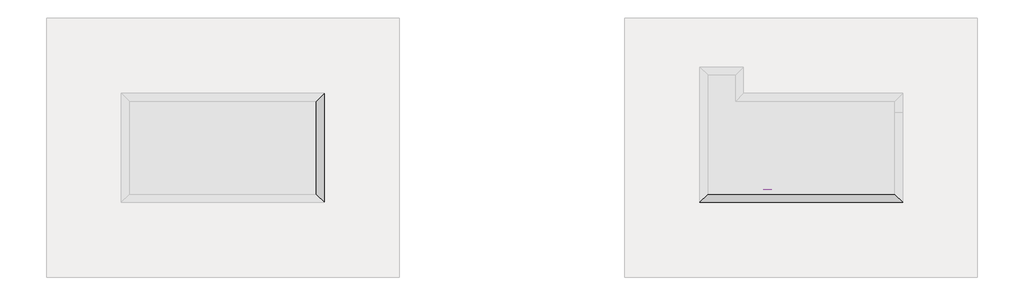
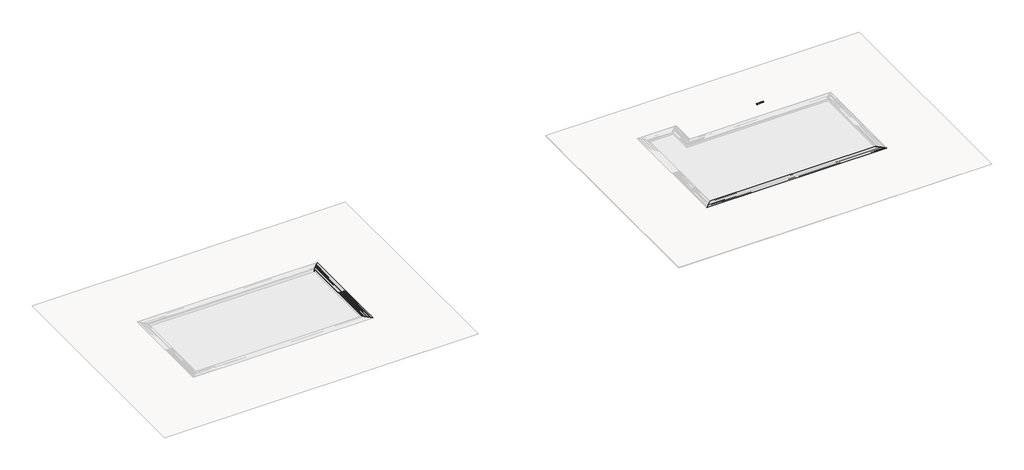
# One storey, part 3 of 6: 7 proxies.
"""IFC4 building model written with IfcOpenShell, lengths in millimetres."""

from ifc_helpers import new_model, si_unit, frame, origin, place, context, project, spatial, polyline, outline, extrude, faceted_brep, transform, mapped, element, save
from components import generic_models_2e22c04a, generic_models_158b5dbd

model = new_model("IFC4")

# Units and contexts
model_context = context("Model", 3, world=origin())
ifc_project = project(units=[si_unit("LENGTHUNIT", "METRE", prefix="MILLI")], contexts=[model_context])

# Site, building, storey
site = spatial("IfcSite", under=ifc_project)
building = spatial("IfcBuilding", under=site)
storey = spatial("IfcBuildingStorey", under=building, Name="EXAGRES_NUBIA Series_Pool_Examples", Elevation=18000.0)

# Proxies
placement = place(None, origin())
element("IfcBuildingElementProxy", 1, Name="Wall Sweeps", at=placement, inside=storey, context=model_context, shape_type="SweptSolid", body=[
    extrude(outline(polyline([(-13343.8828161, -4528.6632512), (-13648.8828161, -4223.6632512), (-5008.8828161, -4223.6632512), (-5313.8828161, -4528.6632512), (-13343.8828161, -4528.6632512)])), frame((0.0, 0.0, 17818.74), z_axis=(0.0, 0.0, 1.0), x_axis=(1.0, 0.0, 0.0)), (0.0, 0.0, 1.0), 200.0),
])
element("IfcBuildingElementProxy", 2, Name="Wall Sweeps", at=placement, inside=storey, context=model_context, shape_type="Brep", body=[
    faceted_brep([(19384.1171839, -8556.6632512, 18000.0), (19371.1171839, -8543.6632512, 18000.0), (19371.1171839, -8543.6632512, 18033.0), (19701.1171839, -8873.6632512, 18033.0), (19701.1171839, -8873.6632512, 18021.0), (19695.1171839, -8867.6632512, 18021.0), (19695.1171839, -8867.6632512, 18022.0), (19691.1171839, -8863.6632512, 18022.0), (19691.1171839, -8863.6632512, 18021.0), (19685.1171839, -8857.6632512, 18021.0), (19685.1171839, -8857.6632512, 18022.0), (19681.1171839, -8853.6632512, 18022.0), (19681.1171839, -8853.6632512, 18021.0), (19675.1171839, -8847.6632512, 18021.0), (19675.1171839, -8847.6632512, 18022.0), (19671.1171839, -8843.6632512, 18022.0), (19671.1171839, -8843.6632512, 18021.0), (19665.1171839, -8837.6632512, 18021.0), (19665.1171839, -8837.6632512, 18022.0), (19661.1171839, -8833.6632512, 18022.0), (19661.1171839, -8833.6632512, 18021.0), (19655.1171839, -8827.6632512, 18021.0), (19655.1171839, -8827.6632512, 18022.0), (19651.1171839, -8823.6632512, 18022.0), (19651.1171839, -8823.6632512, 18021.0), (19645.1171839, -8817.6632512, 18021.0), (19645.1171839, -8817.6632512, 18022.0), (19641.1171839, -8813.6632512, 18022.0), (19641.1171839, -8813.6632512, 18021.0), (19635.1171839, -8807.6632512, 18021.0), (19635.1171839, -8807.6632512, 18022.0), (19631.1171839, -8803.6632512, 18022.0), (19631.1171839, -8803.6632512, 18021.0), (19625.1171839, -8797.6632512, 18021.0), (19625.1171839, -8797.6632512, 18022.0), (19621.1171839, -8793.6632512, 18022.0), (19621.1171839, -8793.6632512, 18021.0), (19615.1171839, -8787.6632512, 18021.0), (19615.1171839, -8787.6632512, 18022.0), (19611.1171839, -8783.6632512, 18022.0), (19611.1171839, -8783.6632512, 18021.0), (19605.1171839, -8777.6632512, 18021.0), (19605.1171839, -8777.6632512, 18022.0), (19601.1171839, -8773.6632512, 18022.0), (19601.1171839, -8773.6632512, 18021.0), (19595.1171839, -8767.6632512, 18021.0), (19595.1171839, -8767.6632512, 18022.0), (19591.1171839, -8763.6632512, 18022.0), (19591.1171839, -8763.6632512, 18021.0), (19585.1171839, -8757.6632512, 18021.0), (19585.1171839, -8757.6632512, 18022.0), (19581.1171839, -8753.6632512, 18022.0), (19581.1171839, -8753.6632512, 18021.0), (19575.1171839, -8747.6632512, 18021.0), (19575.1171839, -8747.6632512, 18022.0), (19571.1171839, -8743.6632512, 18022.0), (19571.1171839, -8743.6632512, 18021.0), (19565.1171839, -8737.6632512, 18021.0), (19565.1171839, -8737.6632512, 18022.0), (19561.1171839, -8733.6632512, 18022.0), (19561.1171839, -8733.6632512, 18021.0), (19555.1171839, -8727.6632512, 18021.0), (19555.1171839, -8727.6632512, 18022.0), (19551.1171839, -8723.6632512, 18022.0), (19551.1171839, -8723.6632512, 18021.0), (19545.1171839, -8717.6632512, 18021.0), (19545.1171839, -8717.6632512, 18022.0), (19541.1171839, -8713.6632512, 18022.0), (19541.1171839, -8713.6632512, 18021.0), (19535.1171839, -8707.6632512, 18021.0), (19535.1171839, -8707.6632512, 18022.0), (19531.1171839, -8703.6632512, 18022.0), (19531.1171839, -8703.6632512, 18021.0), (19525.1171839, -8697.6632512, 18021.0), (19525.1171839, -8697.6632512, 18022.0), (19521.1171839, -8693.6632512, 18022.0), (19521.1171839, -8693.6632512, 18021.0), (19515.1171839, -8687.6632512, 18021.0), (19515.1171839, -8687.6632512, 18022.0), (19511.1171839, -8683.6632512, 18022.0), (19511.1171839, -8683.6632512, 18021.0), (19505.1171839, -8677.6632512, 18021.0), (19505.1171839, -8677.6632512, 18022.0), (19501.1171839, -8673.6632512, 18022.0), (19501.1171839, -8673.6632512, 18021.0), (19495.1171839, -8667.6632512, 18021.0), (19495.1171839, -8667.6632512, 18022.0), (19491.1171839, -8663.6632512, 18022.0), (19491.1171839, -8663.6632512, 18021.0), (19485.1171839, -8657.6632512, 18021.0), (19485.1171839, -8657.6632512, 18022.0), (19481.1171839, -8653.6632512, 18022.0), (19481.1171839, -8653.6632512, 18021.0), (19475.1171839, -8647.6632512, 18021.0), (19475.1171839, -8647.6632512, 18022.0), (19471.1171839, -8643.6632512, 18022.0), (19471.1171839, -8643.6632512, 18021.0), (19465.1171839, -8637.6632512, 18021.0), (19465.1171839, -8637.6632512, 18022.0), (19461.1171839, -8633.6632512, 18022.0), (19461.1171839, -8633.6632512, 18021.0), (19455.1171839, -8627.6632512, 18021.0), (19455.1171839, -8627.6632512, 18022.0), (19451.1171839, -8623.6632512, 18022.0), (19451.1171839, -8623.6632512, 18021.0), (19445.1171839, -8617.6632512, 18021.0), (19445.1171839, -8617.6632512, 18022.0), (19441.1171839, -8613.6632512, 18022.0), (19441.1171839, -8613.6632512, 18021.0), (19435.1171839, -8607.6632512, 18021.0), (19435.1171839, -8607.6632512, 18022.0), (19431.1171839, -8603.6632512, 18022.0), (19431.1171839, -8603.6632512, 18021.0), (19425.1171839, -8597.6632512, 18021.0), (19425.1171839, -8597.6632512, 18022.0), (19421.1171839, -8593.6632512, 18022.0), (19421.1171839, -8593.6632512, 18021.0), (19415.1171839, -8587.6632512, 18021.0), (19415.1171839, -8587.6632512, 18022.0), (19411.1171839, -8583.6632512, 18022.0), (19411.1171839, -8583.6632512, 18021.0), (19405.1171839, -8577.6632512, 18021.0), (19405.1171839, -8577.6632512, 18022.0), (19401.1171839, -8573.6632512, 18022.0), (19401.1171839, -8573.6632512, 18021.0), (19395.1171839, -8567.6632512, 18021.0), (19395.1171839, -8567.6632512, 18022.0), (19391.1171839, -8563.6632512, 18022.0), (19391.1171839, -8563.6632512, 18021.0), (19384.1171839, -8556.6632512, 18021.0), (19384.1171839, -8556.6632512, 18014.0), (19383.1171839, -8555.6632512, 18014.0), (19383.1171839, -8555.6632512, 18008.0), (19384.1171839, -8556.6632512, 18008.0), (11358.1171839, -8556.6632512, 18000.0), (11358.1171839, -8556.6632512, 18008.0), (11359.1171839, -8555.6632512, 18008.0), (11359.1171839, -8555.6632512, 18014.0), (11358.1171839, -8556.6632512, 18014.0), (11358.1171839, -8556.6632512, 18021.0), (11351.1171839, -8563.6632512, 18021.0), (11351.1171839, -8563.6632512, 18022.0), (11347.1171839, -8567.6632512, 18022.0), (11347.1171839, -8567.6632512, 18021.0), (11341.1171839, -8573.6632512, 18021.0), (11341.1171839, -8573.6632512, 18022.0), (11337.1171839, -8577.6632512, 18022.0), (11337.1171839, -8577.6632512, 18021.0), (11331.1171839, -8583.6632512, 18021.0), (11331.1171839, -8583.6632512, 18022.0), (11327.1171839, -8587.6632512, 18022.0), (11327.1171839, -8587.6632512, 18021.0), (11321.1171839, -8593.6632512, 18021.0), (11321.1171839, -8593.6632512, 18022.0), (11317.1171839, -8597.6632512, 18022.0), (11317.1171839, -8597.6632512, 18021.0), (11311.1171839, -8603.6632512, 18021.0), (11311.1171839, -8603.6632512, 18022.0), (11307.1171839, -8607.6632512, 18022.0), (11307.1171839, -8607.6632512, 18021.0), (11301.1171839, -8613.6632512, 18021.0), (11301.1171839, -8613.6632512, 18022.0), (11297.1171839, -8617.6632512, 18022.0), (11297.1171839, -8617.6632512, 18021.0), (11291.1171839, -8623.6632512, 18021.0), (11291.1171839, -8623.6632512, 18022.0), (11287.1171839, -8627.6632512, 18022.0), (11287.1171839, -8627.6632512, 18021.0), (11281.1171839, -8633.6632512, 18021.0), (11281.1171839, -8633.6632512, 18022.0), (11277.1171839, -8637.6632512, 18022.0), (11277.1171839, -8637.6632512, 18021.0), (11271.1171839, -8643.6632512, 18021.0), (11271.1171839, -8643.6632512, 18022.0), (11267.1171839, -8647.6632512, 18022.0), (11267.1171839, -8647.6632512, 18021.0), (11261.1171839, -8653.6632512, 18021.0), (11261.1171839, -8653.6632512, 18022.0), (11257.1171839, -8657.6632512, 18022.0), (11257.1171839, -8657.6632512, 18021.0), (11251.1171839, -8663.6632512, 18021.0), (11251.1171839, -8663.6632512, 18022.0), (11247.1171839, -8667.6632512, 18022.0), (11247.1171839, -8667.6632512, 18021.0), (11241.1171839, -8673.6632512, 18021.0), (11241.1171839, -8673.6632512, 18022.0), (11237.1171839, -8677.6632512, 18022.0), (11237.1171839, -8677.6632512, 18021.0), (11231.1171839, -8683.6632512, 18021.0), (11231.1171839, -8683.6632512, 18022.0), (11227.1171839, -8687.6632512, 18022.0), (11227.1171839, -8687.6632512, 18021.0), (11221.1171839, -8693.6632512, 18021.0), (11221.1171839, -8693.6632512, 18022.0), (11217.1171839, -8697.6632512, 18022.0), (11217.1171839, -8697.6632512, 18021.0), (11211.1171839, -8703.6632512, 18021.0), (11211.1171839, -8703.6632512, 18022.0), (11207.1171839, -8707.6632512, 18022.0), (11207.1171839, -8707.6632512, 18021.0), (11201.1171839, -8713.6632512, 18021.0), (11201.1171839, -8713.6632512, 18022.0), (11197.1171839, -8717.6632512, 18022.0), (11197.1171839, -8717.6632512, 18021.0), (11191.1171839, -8723.6632512, 18021.0), (11191.1171839, -8723.6632512, 18022.0), (11187.1171839, -8727.6632512, 18022.0), (11187.1171839, -8727.6632512, 18021.0), (11181.1171839, -8733.6632512, 18021.0), (11181.1171839, -8733.6632512, 18022.0), (11177.1171839, -8737.6632512, 18022.0), (11177.1171839, -8737.6632512, 18021.0), (11171.1171839, -8743.6632512, 18021.0), (11171.1171839, -8743.6632512, 18022.0), (11167.1171839, -8747.6632512, 18022.0), (11167.1171839, -8747.6632512, 18021.0), (11161.1171839, -8753.6632512, 18021.0), (11161.1171839, -8753.6632512, 18022.0), (11157.1171839, -8757.6632512, 18022.0), (11157.1171839, -8757.6632512, 18021.0), (11151.1171839, -8763.6632512, 18021.0), (11151.1171839, -8763.6632512, 18022.0), (11147.1171839, -8767.6632512, 18022.0), (11147.1171839, -8767.6632512, 18021.0), (11141.1171839, -8773.6632512, 18021.0), (11141.1171839, -8773.6632512, 18022.0), (11137.1171839, -8777.6632512, 18022.0), (11137.1171839, -8777.6632512, 18021.0), (11131.1171839, -8783.6632512, 18021.0), (11131.1171839, -8783.6632512, 18022.0), (11127.1171839, -8787.6632512, 18022.0), (11127.1171839, -8787.6632512, 18021.0), (11121.1171839, -8793.6632512, 18021.0), (11121.1171839, -8793.6632512, 18022.0), (11117.1171839, -8797.6632512, 18022.0), (11117.1171839, -8797.6632512, 18021.0), (11111.1171839, -8803.6632512, 18021.0), (11111.1171839, -8803.6632512, 18022.0), (11107.1171839, -8807.6632512, 18022.0), (11107.1171839, -8807.6632512, 18021.0), (11101.1171839, -8813.6632512, 18021.0), (11101.1171839, -8813.6632512, 18022.0), (11097.1171839, -8817.6632512, 18022.0), (11097.1171839, -8817.6632512, 18021.0), (11091.1171839, -8823.6632512, 18021.0), (11091.1171839, -8823.6632512, 18022.0), (11087.1171839, -8827.6632512, 18022.0), (11087.1171839, -8827.6632512, 18021.0), (11081.1171839, -8833.6632512, 18021.0), (11081.1171839, -8833.6632512, 18022.0), (11077.1171839, -8837.6632512, 18022.0), (11077.1171839, -8837.6632512, 18021.0), (11071.1171839, -8843.6632512, 18021.0), (11071.1171839, -8843.6632512, 18022.0), (11067.1171839, -8847.6632512, 18022.0), (11067.1171839, -8847.6632512, 18021.0), (11061.1171839, -8853.6632512, 18021.0), (11061.1171839, -8853.6632512, 18022.0), (11057.1171839, -8857.6632512, 18022.0), (11057.1171839, -8857.6632512, 18021.0), (11051.1171839, -8863.6632512, 18021.0), (11051.1171839, -8863.6632512, 18022.0), (11047.1171839, -8867.6632512, 18022.0), (11047.1171839, -8867.6632512, 18021.0), (11041.1171839, -8873.6632512, 18021.0), (11041.1171839, -8873.6632512, 18033.0), (11371.1171839, -8543.6632512, 18033.0), (11371.1171839, -8543.6632512, 18000.0)], [[[0, 1, 2, 3, 4, 5, 6, 7, 8, 9, 10, 11, 12, 13, 14, 15, 16, 17, 18, 19, 20, 21, 22, 23, 24, 25, 26, 27, 28, 29, 30, 31, 32, 33, 34, 35, 36, 37, 38, 39, 40, 41, 42, 43, 44, 45, 46, 47, 48, 49, 50, 51, 52, 53, 54, 55, 56, 57, 58, 59, 60, 61, 62, 63, 64, 65, 66, 67, 68, 69, 70, 71, 72, 73, 74, 75, 76, 77, 78, 79, 80, 81, 82, 83, 84, 85, 86, 87, 88, 89, 90, 91, 92, 93, 94, 95, 96, 97, 98, 99, 100, 101, 102, 103, 104, 105, 106, 107, 108, 109, 110, 111, 112, 113, 114, 115, 116, 117, 118, 119, 120, 121, 122, 123, 124, 125, 126, 127, 128, 129, 130, 131, 132, 133]], [[134, 135, 136, 137, 138, 139, 140, 141, 142, 143, 144, 145, 146, 147, 148, 149, 150, 151, 152, 153, 154, 155, 156, 157, 158, 159, 160, 161, 162, 163, 164, 165, 166, 167, 168, 169, 170, 171, 172, 173, 174, 175, 176, 177, 178, 179, 180, 181, 182, 183, 184, 185, 186, 187, 188, 189, 190, 191, 192, 193, 194, 195, 196, 197, 198, 199, 200, 201, 202, 203, 204, 205, 206, 207, 208, 209, 210, 211, 212, 213, 214, 215, 216, 217, 218, 219, 220, 221, 222, 223, 224, 225, 226, 227, 228, 229, 230, 231, 232, 233, 234, 235, 236, 237, 238, 239, 240, 241, 242, 243, 244, 245, 246, 247, 248, 249, 250, 251, 252, 253, 254, 255, 256, 257, 258, 259, 260, 261, 262, 263, 264, 265, 266, 267]], [[1, 0, 134, 267]], [[2, 1, 267, 266]], [[3, 2, 266, 265]], [[4, 3, 265, 264]], [[5, 4, 264, 263]], [[6, 5, 263, 262]], [[7, 6, 262, 261]], [[8, 7, 261, 260]], [[9, 8, 260, 259]], [[10, 9, 259, 258]], [[11, 10, 258, 257]], [[12, 11, 257, 256]], [[13, 12, 256, 255]], [[14, 13, 255, 254]], [[15, 14, 254, 253]], [[16, 15, 253, 252]], [[17, 16, 252, 251]], [[18, 17, 251, 250]], [[19, 18, 250, 249]], [[20, 19, 249, 248]], [[21, 20, 248, 247]], [[22, 21, 247, 246]], [[23, 22, 246, 245]], [[24, 23, 245, 244]], [[25, 24, 244, 243]], [[26, 25, 243, 242]], [[27, 26, 242, 241]], [[28, 27, 241, 240]], [[29, 28, 240, 239]], [[30, 29, 239, 238]], [[31, 30, 238, 237]], [[32, 31, 237, 236]], [[33, 32, 236, 235]], [[34, 33, 235, 234]], [[35, 34, 234, 233]], [[36, 35, 233, 232]], [[37, 36, 232, 231]], [[38, 37, 231, 230]], [[39, 38, 230, 229]], [[40, 39, 229, 228]], [[41, 40, 228, 227]], [[42, 41, 227, 226]], [[43, 42, 226, 225]], [[44, 43, 225, 224]], [[45, 44, 224, 223]], [[46, 45, 223, 222]], [[47, 46, 222, 221]], [[48, 47, 221, 220]], [[49, 48, 220, 219]], [[50, 49, 219, 218]], [[51, 50, 218, 217]], [[52, 51, 217, 216]], [[53, 52, 216, 215]], [[54, 53, 215, 214]], [[55, 54, 214, 213]], [[56, 55, 213, 212]], [[57, 56, 212, 211]], [[58, 57, 211, 210]], [[59, 58, 210, 209]], [[60, 59, 209, 208]], [[61, 60, 208, 207]], [[62, 61, 207, 206]], [[63, 62, 206, 205]], [[64, 63, 205, 204]], [[65, 64, 204, 203]], [[66, 65, 203, 202]], [[67, 66, 202, 201]], [[68, 67, 201, 200]], [[69, 68, 200, 199]], [[70, 69, 199, 198]], [[71, 70, 198, 197]], [[72, 71, 197, 196]], [[73, 72, 196, 195]], [[74, 73, 195, 194]], [[75, 74, 194, 193]], [[76, 75, 193, 192]], [[77, 76, 192, 191]], [[78, 77, 191, 190]], [[79, 78, 190, 189]], [[80, 79, 189, 188]], [[81, 80, 188, 187]], [[82, 81, 187, 186]], [[83, 82, 186, 185]], [[84, 83, 185, 184]], [[85, 84, 184, 183]], [[86, 85, 183, 182]], [[87, 86, 182, 181]], [[88, 87, 181, 180]], [[89, 88, 180, 179]], [[90, 89, 179, 178]], [[91, 90, 178, 177]], [[92, 91, 177, 176]], [[93, 92, 176, 175]], [[94, 93, 175, 174]], [[95, 94, 174, 173]], [[96, 95, 173, 172]], [[97, 96, 172, 171]], [[98, 97, 171, 170]], [[99, 98, 170, 169]], [[100, 99, 169, 168]], [[101, 100, 168, 167]], [[102, 101, 167, 166]], [[103, 102, 166, 165]], [[104, 103, 165, 164]], [[105, 104, 164, 163]], [[106, 105, 163, 162]], [[107, 106, 162, 161]], [[108, 107, 161, 160]], [[109, 108, 160, 159]], [[110, 109, 159, 158]], [[111, 110, 158, 157]], [[112, 111, 157, 156]], [[113, 112, 156, 155]], [[114, 113, 155, 154]], [[115, 114, 154, 153]], [[116, 115, 153, 152]], [[117, 116, 152, 151]], [[118, 117, 151, 150]], [[119, 118, 150, 149]], [[120, 119, 149, 148]], [[121, 120, 148, 147]], [[122, 121, 147, 146]], [[123, 122, 146, 145]], [[124, 123, 145, 144]], [[125, 124, 144, 143]], [[126, 125, 143, 142]], [[127, 126, 142, 141]], [[128, 127, 141, 140]], [[129, 128, 140, 139]], [[130, 129, 139, 138]], [[131, 130, 138, 137]], [[132, 131, 137, 136]], [[133, 132, 136, 135]], [[0, 133, 135, 134]]]),
])
element("IfcBuildingElementProxy", 3, Name="Wall Sweeps", at=placement, inside=storey, context=model_context, shape_type="Brep", body=[
    faceted_brep([(19691.1171839, -8863.6632512, 17818.74), (19386.1171839, -8558.6632512, 17818.74), (19386.1171839, -8558.6632512, 18018.74), (19691.1171839, -8863.6632512, 18018.74), (11051.1171839, -8863.6632512, 17818.74), (11051.1171839, -8863.6632512, 18018.74), (11356.1171839, -8558.6632512, 18018.74), (11356.1171839, -8558.6632512, 18000.0), (11356.1171839, -8558.6632512, 17818.74), (11146.1171839, -8768.6632512, 17818.74)], [[[0, 1, 2, 3]], [[4, 5, 6, 7, 8, 9]], [[2, 1, 8, 7, 6]], [[1, 0, 4, 9, 8]], [[3, 2, 6, 5]], [[0, 3, 5, 4]]]),
])
element("IfcBuildingElementProxy", 4, Name="Wall Sweeps", at=placement, inside=storey, context=model_context, shape_type="Brep", body=[
    faceted_brep([(-5315.8828161, -4530.6632512, 18000.0), (-5328.8828161, -4543.6632512, 18000.0), (-5328.8828161, -4543.6632512, 18033.0), (-4998.8828161, -4213.6632512, 18033.0), (-4998.8828161, -4213.6632512, 18021.0), (-5004.8828161, -4219.6632512, 18021.0), (-5004.8828161, -4219.6632512, 18022.0), (-5008.8828161, -4223.6632512, 18022.0), (-5008.8828161, -4223.6632512, 18021.0), (-5014.8828161, -4229.6632512, 18021.0), (-5014.8828161, -4229.6632512, 18022.0), (-5018.8828161, -4233.6632512, 18022.0), (-5018.8828161, -4233.6632512, 18021.0), (-5024.8828161, -4239.6632512, 18021.0), (-5024.8828161, -4239.6632512, 18022.0), (-5028.8828161, -4243.6632512, 18022.0), (-5028.8828161, -4243.6632512, 18021.0), (-5034.8828161, -4249.6632512, 18021.0), (-5034.8828161, -4249.6632512, 18022.0), (-5038.8828161, -4253.6632512, 18022.0), (-5038.8828161, -4253.6632512, 18021.0), (-5044.8828161, -4259.6632512, 18021.0), (-5044.8828161, -4259.6632512, 18022.0), (-5048.8828161, -4263.6632512, 18022.0), (-5048.8828161, -4263.6632512, 18021.0), (-5054.8828161, -4269.6632512, 18021.0), (-5054.8828161, -4269.6632512, 18022.0), (-5058.8828161, -4273.6632512, 18022.0), (-5058.8828161, -4273.6632512, 18021.0), (-5064.8828161, -4279.6632512, 18021.0), (-5064.8828161, -4279.6632512, 18022.0), (-5068.8828161, -4283.6632512, 18022.0), (-5068.8828161, -4283.6632512, 18021.0), (-5074.8828161, -4289.6632512, 18021.0), (-5074.8828161, -4289.6632512, 18022.0), (-5078.8828161, -4293.6632512, 18022.0), (-5078.8828161, -4293.6632512, 18021.0), (-5084.8828161, -4299.6632512, 18021.0), (-5084.8828161, -4299.6632512, 18022.0), (-5088.8828161, -4303.6632512, 18022.0), (-5088.8828161, -4303.6632512, 18021.0), (-5094.8828161, -4309.6632512, 18021.0), (-5094.8828161, -4309.6632512, 18022.0), (-5098.8828161, -4313.6632512, 18022.0), (-5098.8828161, -4313.6632512, 18021.0), (-5104.8828161, -4319.6632512, 18021.0), (-5104.8828161, -4319.6632512, 18022.0), (-5108.8828161, -4323.6632512, 18022.0), (-5108.8828161, -4323.6632512, 18021.0), (-5114.8828161, -4329.6632512, 18021.0), (-5114.8828161, -4329.6632512, 18022.0), (-5118.8828161, -4333.6632512, 18022.0), (-5118.8828161, -4333.6632512, 18021.0), (-5124.8828161, -4339.6632512, 18021.0), (-5124.8828161, -4339.6632512, 18022.0), (-5128.8828161, -4343.6632512, 18022.0), (-5128.8828161, -4343.6632512, 18021.0), (-5134.8828161, -4349.6632512, 18021.0), (-5134.8828161, -4349.6632512, 18022.0), (-5138.8828161, -4353.6632512, 18022.0), (-5138.8828161, -4353.6632512, 18021.0), (-5144.8828161, -4359.6632512, 18021.0), (-5144.8828161, -4359.6632512, 18022.0), (-5148.8828161, -4363.6632512, 18022.0), (-5148.8828161, -4363.6632512, 18021.0), (-5154.8828161, -4369.6632512, 18021.0), (-5154.8828161, -4369.6632512, 18022.0), (-5158.8828161, -4373.6632512, 18022.0), (-5158.8828161, -4373.6632512, 18021.0), (-5164.8828161, -4379.6632512, 18021.0), (-5164.8828161, -4379.6632512, 18022.0), (-5168.8828161, -4383.6632512, 18022.0), (-5168.8828161, -4383.6632512, 18021.0), (-5174.8828161, -4389.6632512, 18021.0), (-5174.8828161, -4389.6632512, 18022.0), (-5178.8828161, -4393.6632512, 18022.0), (-5178.8828161, -4393.6632512, 18021.0), (-5184.8828161, -4399.6632512, 18021.0), (-5184.8828161, -4399.6632512, 18022.0), (-5188.8828161, -4403.6632512, 18022.0), (-5188.8828161, -4403.6632512, 18021.0), (-5194.8828161, -4409.6632512, 18021.0), (-5194.8828161, -4409.6632512, 18022.0), (-5198.8828161, -4413.6632512, 18022.0), (-5198.8828161, -4413.6632512, 18021.0), (-5204.8828161, -4419.6632512, 18021.0), (-5204.8828161, -4419.6632512, 18022.0), (-5208.8828161, -4423.6632512, 18022.0), (-5208.8828161, -4423.6632512, 18021.0), (-5214.8828161, -4429.6632512, 18021.0), (-5214.8828161, -4429.6632512, 18022.0), (-5218.8828161, -4433.6632512, 18022.0), (-5218.8828161, -4433.6632512, 18021.0), (-5224.8828161, -4439.6632512, 18021.0), (-5224.8828161, -4439.6632512, 18022.0), (-5228.8828161, -4443.6632512, 18022.0), (-5228.8828161, -4443.6632512, 18021.0), (-5234.8828161, -4449.6632512, 18021.0), (-5234.8828161, -4449.6632512, 18022.0), (-5238.8828161, -4453.6632512, 18022.0), (-5238.8828161, -4453.6632512, 18021.0), (-5244.8828161, -4459.6632512, 18021.0), (-5244.8828161, -4459.6632512, 18022.0), (-5248.8828161, -4463.6632512, 18022.0), (-5248.8828161, -4463.6632512, 18021.0), (-5254.8828161, -4469.6632512, 18021.0), (-5254.8828161, -4469.6632512, 18022.0), (-5258.8828161, -4473.6632512, 18022.0), (-5258.8828161, -4473.6632512, 18021.0), (-5264.8828161, -4479.6632512, 18021.0), (-5264.8828161, -4479.6632512, 18022.0), (-5268.8828161, -4483.6632512, 18022.0), (-5268.8828161, -4483.6632512, 18021.0), (-5274.8828161, -4489.6632512, 18021.0), (-5274.8828161, -4489.6632512, 18022.0), (-5278.8828161, -4493.6632512, 18022.0), (-5278.8828161, -4493.6632512, 18021.0), (-5284.8828161, -4499.6632512, 18021.0), (-5284.8828161, -4499.6632512, 18022.0), (-5288.8828161, -4503.6632512, 18022.0), (-5288.8828161, -4503.6632512, 18021.0), (-5294.8828161, -4509.6632512, 18021.0), (-5294.8828161, -4509.6632512, 18022.0), (-5298.8828161, -4513.6632512, 18022.0), (-5298.8828161, -4513.6632512, 18021.0), (-5304.8828161, -4519.6632512, 18021.0), (-5304.8828161, -4519.6632512, 18022.0), (-5308.8828161, -4523.6632512, 18022.0), (-5308.8828161, -4523.6632512, 18021.0), (-5315.8828161, -4530.6632512, 18021.0), (-5315.8828161, -4530.6632512, 18014.0), (-5316.8828161, -4531.6632512, 18014.0), (-5316.8828161, -4531.6632512, 18008.0), (-5315.8828161, -4530.6632512, 18008.0), (-5315.8828161, -8556.6632512, 18000.0), (-5315.8828161, -8556.6632512, 18008.0), (-5316.8828161, -8555.6632512, 18008.0), (-5316.8828161, -8555.6632512, 18014.0), (-5315.8828161, -8556.6632512, 18014.0), (-5315.8828161, -8556.6632512, 18021.0), (-5308.8828161, -8563.6632512, 18021.0), (-5308.8828161, -8563.6632512, 18022.0), (-5304.8828161, -8567.6632512, 18022.0), (-5304.8828161, -8567.6632512, 18021.0), (-5298.8828161, -8573.6632512, 18021.0), (-5298.8828161, -8573.6632512, 18022.0), (-5294.8828161, -8577.6632512, 18022.0), (-5294.8828161, -8577.6632512, 18021.0), (-5288.8828161, -8583.6632512, 18021.0), (-5288.8828161, -8583.6632512, 18022.0), (-5284.8828161, -8587.6632512, 18022.0), (-5284.8828161, -8587.6632512, 18021.0), (-5278.8828161, -8593.6632512, 18021.0), (-5278.8828161, -8593.6632512, 18022.0), (-5274.8828161, -8597.6632512, 18022.0), (-5274.8828161, -8597.6632512, 18021.0), (-5268.8828161, -8603.6632512, 18021.0), (-5268.8828161, -8603.6632512, 18022.0), (-5264.8828161, -8607.6632512, 18022.0), (-5264.8828161, -8607.6632512, 18021.0), (-5258.8828161, -8613.6632512, 18021.0), (-5258.8828161, -8613.6632512, 18022.0), (-5254.8828161, -8617.6632512, 18022.0), (-5254.8828161, -8617.6632512, 18021.0), (-5248.8828161, -8623.6632512, 18021.0), (-5248.8828161, -8623.6632512, 18022.0), (-5244.8828161, -8627.6632512, 18022.0), (-5244.8828161, -8627.6632512, 18021.0), (-5238.8828161, -8633.6632512, 18021.0), (-5238.8828161, -8633.6632512, 18022.0), (-5234.8828161, -8637.6632512, 18022.0), (-5234.8828161, -8637.6632512, 18021.0), (-5228.8828161, -8643.6632512, 18021.0), (-5228.8828161, -8643.6632512, 18022.0), (-5224.8828161, -8647.6632512, 18022.0), (-5224.8828161, -8647.6632512, 18021.0), (-5218.8828161, -8653.6632512, 18021.0), (-5218.8828161, -8653.6632512, 18022.0), (-5214.8828161, -8657.6632512, 18022.0), (-5214.8828161, -8657.6632512, 18021.0), (-5208.8828161, -8663.6632512, 18021.0), (-5208.8828161, -8663.6632512, 18022.0), (-5204.8828161, -8667.6632512, 18022.0), (-5204.8828161, -8667.6632512, 18021.0), (-5198.8828161, -8673.6632512, 18021.0), (-5198.8828161, -8673.6632512, 18022.0), (-5194.8828161, -8677.6632512, 18022.0), (-5194.8828161, -8677.6632512, 18021.0), (-5188.8828161, -8683.6632512, 18021.0), (-5188.8828161, -8683.6632512, 18022.0), (-5184.8828161, -8687.6632512, 18022.0), (-5184.8828161, -8687.6632512, 18021.0), (-5178.8828161, -8693.6632512, 18021.0), (-5178.8828161, -8693.6632512, 18022.0), (-5174.8828161, -8697.6632512, 18022.0), (-5174.8828161, -8697.6632512, 18021.0), (-5168.8828161, -8703.6632512, 18021.0), (-5168.8828161, -8703.6632512, 18022.0), (-5164.8828161, -8707.6632512, 18022.0), (-5164.8828161, -8707.6632512, 18021.0), (-5158.8828161, -8713.6632512, 18021.0), (-5158.8828161, -8713.6632512, 18022.0), (-5154.8828161, -8717.6632512, 18022.0), (-5154.8828161, -8717.6632512, 18021.0), (-5148.8828161, -8723.6632512, 18021.0), (-5148.8828161, -8723.6632512, 18022.0), (-5144.8828161, -8727.6632512, 18022.0), (-5144.8828161, -8727.6632512, 18021.0), (-5138.8828161, -8733.6632512, 18021.0), (-5138.8828161, -8733.6632512, 18022.0), (-5134.8828161, -8737.6632512, 18022.0), (-5134.8828161, -8737.6632512, 18021.0), (-5128.8828161, -8743.6632512, 18021.0), (-5128.8828161, -8743.6632512, 18022.0), (-5124.8828161, -8747.6632512, 18022.0), (-5124.8828161, -8747.6632512, 18021.0), (-5118.8828161, -8753.6632512, 18021.0), (-5118.8828161, -8753.6632512, 18022.0), (-5114.8828161, -8757.6632512, 18022.0), (-5114.8828161, -8757.6632512, 18021.0), (-5108.8828161, -8763.6632512, 18021.0), (-5108.8828161, -8763.6632512, 18022.0), (-5104.8828161, -8767.6632512, 18022.0), (-5104.8828161, -8767.6632512, 18021.0), (-5098.8828161, -8773.6632512, 18021.0), (-5098.8828161, -8773.6632512, 18022.0), (-5094.8828161, -8777.6632512, 18022.0), (-5094.8828161, -8777.6632512, 18021.0), (-5088.8828161, -8783.6632512, 18021.0), (-5088.8828161, -8783.6632512, 18022.0), (-5084.8828161, -8787.6632512, 18022.0), (-5084.8828161, -8787.6632512, 18021.0), (-5078.8828161, -8793.6632512, 18021.0), (-5078.8828161, -8793.6632512, 18022.0), (-5074.8828161, -8797.6632512, 18022.0), (-5074.8828161, -8797.6632512, 18021.0), (-5068.8828161, -8803.6632512, 18021.0), (-5068.8828161, -8803.6632512, 18022.0), (-5064.8828161, -8807.6632512, 18022.0), (-5064.8828161, -8807.6632512, 18021.0), (-5058.8828161, -8813.6632512, 18021.0), (-5058.8828161, -8813.6632512, 18022.0), (-5054.8828161, -8817.6632512, 18022.0), (-5054.8828161, -8817.6632512, 18021.0), (-5048.8828161, -8823.6632512, 18021.0), (-5048.8828161, -8823.6632512, 18022.0), (-5044.8828161, -8827.6632512, 18022.0), (-5044.8828161, -8827.6632512, 18021.0), (-5038.8828161, -8833.6632512, 18021.0), (-5038.8828161, -8833.6632512, 18022.0), (-5034.8828161, -8837.6632512, 18022.0), (-5034.8828161, -8837.6632512, 18021.0), (-5028.8828161, -8843.6632512, 18021.0), (-5028.8828161, -8843.6632512, 18022.0), (-5024.8828161, -8847.6632512, 18022.0), (-5024.8828161, -8847.6632512, 18021.0), (-5018.8828161, -8853.6632512, 18021.0), (-5018.8828161, -8853.6632512, 18022.0), (-5014.8828161, -8857.6632512, 18022.0), (-5014.8828161, -8857.6632512, 18021.0), (-5008.8828161, -8863.6632512, 18021.0), (-5008.8828161, -8863.6632512, 18022.0), (-5004.8828161, -8867.6632512, 18022.0), (-5004.8828161, -8867.6632512, 18021.0), (-4998.8828161, -8873.6632512, 18021.0), (-4998.8828161, -8873.6632512, 18033.0), (-5328.8828161, -8543.6632512, 18033.0), (-5328.8828161, -8543.6632512, 18000.0)], [[[0, 1, 2, 3, 4, 5, 6, 7, 8, 9, 10, 11, 12, 13, 14, 15, 16, 17, 18, 19, 20, 21, 22, 23, 24, 25, 26, 27, 28, 29, 30, 31, 32, 33, 34, 35, 36, 37, 38, 39, 40, 41, 42, 43, 44, 45, 46, 47, 48, 49, 50, 51, 52, 53, 54, 55, 56, 57, 58, 59, 60, 61, 62, 63, 64, 65, 66, 67, 68, 69, 70, 71, 72, 73, 74, 75, 76, 77, 78, 79, 80, 81, 82, 83, 84, 85, 86, 87, 88, 89, 90, 91, 92, 93, 94, 95, 96, 97, 98, 99, 100, 101, 102, 103, 104, 105, 106, 107, 108, 109, 110, 111, 112, 113, 114, 115, 116, 117, 118, 119, 120, 121, 122, 123, 124, 125, 126, 127, 128, 129, 130, 131, 132, 133]], [[134, 135, 136, 137, 138, 139, 140, 141, 142, 143, 144, 145, 146, 147, 148, 149, 150, 151, 152, 153, 154, 155, 156, 157, 158, 159, 160, 161, 162, 163, 164, 165, 166, 167, 168, 169, 170, 171, 172, 173, 174, 175, 176, 177, 178, 179, 180, 181, 182, 183, 184, 185, 186, 187, 188, 189, 190, 191, 192, 193, 194, 195, 196, 197, 198, 199, 200, 201, 202, 203, 204, 205, 206, 207, 208, 209, 210, 211, 212, 213, 214, 215, 216, 217, 218, 219, 220, 221, 222, 223, 224, 225, 226, 227, 228, 229, 230, 231, 232, 233, 234, 235, 236, 237, 238, 239, 240, 241, 242, 243, 244, 245, 246, 247, 248, 249, 250, 251, 252, 253, 254, 255, 256, 257, 258, 259, 260, 261, 262, 263, 264, 265, 266, 267]], [[1, 0, 134, 267]], [[2, 1, 267, 266]], [[3, 2, 266, 265]], [[4, 3, 265, 264]], [[5, 4, 264, 263]], [[6, 5, 263, 262]], [[7, 6, 262, 261]], [[8, 7, 261, 260]], [[9, 8, 260, 259]], [[10, 9, 259, 258]], [[11, 10, 258, 257]], [[12, 11, 257, 256]], [[13, 12, 256, 255]], [[14, 13, 255, 254]], [[15, 14, 254, 253]], [[16, 15, 253, 252]], [[17, 16, 252, 251]], [[18, 17, 251, 250]], [[19, 18, 250, 249]], [[20, 19, 249, 248]], [[21, 20, 248, 247]], [[22, 21, 247, 246]], [[23, 22, 246, 245]], [[24, 23, 245, 244]], [[25, 24, 244, 243]], [[26, 25, 243, 242]], [[27, 26, 242, 241]], [[28, 27, 241, 240]], [[29, 28, 240, 239]], [[30, 29, 239, 238]], [[31, 30, 238, 237]], [[32, 31, 237, 236]], [[33, 32, 236, 235]], [[34, 33, 235, 234]], [[35, 34, 234, 233]], [[36, 35, 233, 232]], [[37, 36, 232, 231]], [[38, 37, 231, 230]], [[39, 38, 230, 229]], [[40, 39, 229, 228]], [[41, 40, 228, 227]], [[42, 41, 227, 226]], [[43, 42, 226, 225]], [[44, 43, 225, 224]], [[45, 44, 224, 223]], [[46, 45, 223, 222]], [[47, 46, 222, 221]], [[48, 47, 221, 220]], [[49, 48, 220, 219]], [[50, 49, 219, 218]], [[51, 50, 218, 217]], [[52, 51, 217, 216]], [[53, 52, 216, 215]], [[54, 53, 215, 214]], [[55, 54, 214, 213]], [[56, 55, 213, 212]], [[57, 56, 212, 211]], [[58, 57, 211, 210]], [[59, 58, 210, 209]], [[60, 59, 209, 208]], [[61, 60, 208, 207]], [[62, 61, 207, 206]], [[63, 62, 206, 205]], [[64, 63, 205, 204]], [[65, 64, 204, 203]], [[66, 65, 203, 202]], [[67, 66, 202, 201]], [[68, 67, 201, 200]], [[69, 68, 200, 199]], [[70, 69, 199, 198]], [[71, 70, 198, 197]], [[72, 71, 197, 196]], [[73, 72, 196, 195]], [[74, 73, 195, 194]], [[75, 74, 194, 193]], [[76, 75, 193, 192]], [[77, 76, 192, 191]], [[78, 77, 191, 190]], [[79, 78, 190, 189]], [[80, 79, 189, 188]], [[81, 80, 188, 187]], [[82, 81, 187, 186]], [[83, 82, 186, 185]], [[84, 83, 185, 184]], [[85, 84, 184, 183]], [[86, 85, 183, 182]], [[87, 86, 182, 181]], [[88, 87, 181, 180]], [[89, 88, 180, 179]], [[90, 89, 179, 178]], [[91, 90, 178, 177]], [[92, 91, 177, 176]], [[93, 92, 176, 175]], [[94, 93, 175, 174]], [[95, 94, 174, 173]], [[96, 95, 173, 172]], [[97, 96, 172, 171]], [[98, 97, 171, 170]], [[99, 98, 170, 169]], [[100, 99, 169, 168]], [[101, 100, 168, 167]], [[102, 101, 167, 166]], [[103, 102, 166, 165]], [[104, 103, 165, 164]], [[105, 104, 164, 163]], [[106, 105, 163, 162]], [[107, 106, 162, 161]], [[108, 107, 161, 160]], [[109, 108, 160, 159]], [[110, 109, 159, 158]], [[111, 110, 158, 157]], [[112, 111, 157, 156]], [[113, 112, 156, 155]], [[114, 113, 155, 154]], [[115, 114, 154, 153]], [[116, 115, 153, 152]], [[117, 116, 152, 151]], [[118, 117, 151, 150]], [[119, 118, 150, 149]], [[120, 119, 149, 148]], [[121, 120, 148, 147]], [[122, 121, 147, 146]], [[123, 122, 146, 145]], [[124, 123, 145, 144]], [[125, 124, 144, 143]], [[126, 125, 143, 142]], [[127, 126, 142, 141]], [[128, 127, 141, 140]], [[129, 128, 140, 139]], [[130, 129, 139, 138]], [[131, 130, 138, 137]], [[132, 131, 137, 136]], [[133, 132, 136, 135]], [[0, 133, 135, 134]]]),
])
element("IfcBuildingElementProxy", 5, Name="Wall Sweeps", at=placement, inside=storey, context=model_context, shape_type="Brep", body=[
    faceted_brep([(-5008.8828161, -4223.6632512, 17818.74), (-5313.8828161, -4528.6632512, 17818.74), (-5313.8828161, -4528.6632512, 18018.74), (-5008.8828161, -4223.6632512, 18018.74), (-5008.8828161, -8863.6632512, 17818.74), (-5008.8828161, -8863.6632512, 18018.74), (-5313.8828161, -8558.6632512, 18018.74), (-5313.8828161, -8558.6632512, 18000.0), (-5313.8828161, -8558.6632512, 17818.74), (-5103.8828161, -8768.6632512, 17818.74), (-5313.8828161, -4543.6632512, 17818.74)], [[[0, 1, 2, 3]], [[4, 5, 6, 7, 8, 9]], [[1, 0, 4, 9, 8, 10]], [[2, 1, 10, 8, 7, 6]], [[3, 2, 6, 5]], [[0, 3, 5, 4]]]),
])
generic_models_shape = generic_models_2e22c04a(model_context)
element("IfcBuildingElementProxy", 6, Name="EXAGRES - Half Round Coving : Nubia_33x4cm", ObjectType="EXAGRES - Half Round Coving : Nubia_33x4cm", at=placement, inside=storey, context=model_context, shape_type="MappedRepresentation", body=[
    mapped(generic_models_shape, transform((13752.844275, -8316.4280937, 22000.0), x_axis=(1.0, 0.0, 0.0), y_axis=(0.0, 1.0, 0.0), z_axis=(0.0, 0.0, 1.0))),
])
generic_models_2_shape = generic_models_158b5dbd(model_context)
element("IfcBuildingElementProxy", 7, Name="EXAGRES - Half Round Coving : Nubia_33x4cm", ObjectType="EXAGRES - Half Round Coving : Nubia_33x4cm", at=placement, inside=storey, context=model_context, shape_type="MappedRepresentation", body=[
    mapped(generic_models_2_shape, transform((-7328.8828161, -4543.6632512, 16500.0), x_axis=(-0.9701425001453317, 0.0, 0.24253562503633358), y_axis=(-0.24253562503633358, 0.0, -0.9701425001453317), z_axis=(0.0, -1.0, 0.0))),
])

save(model, "model.ifc")
